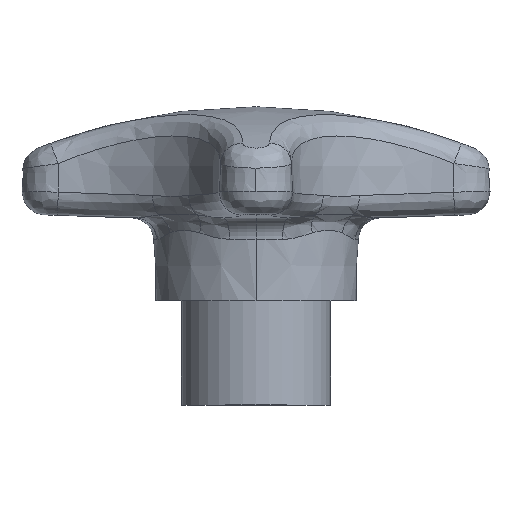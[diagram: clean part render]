
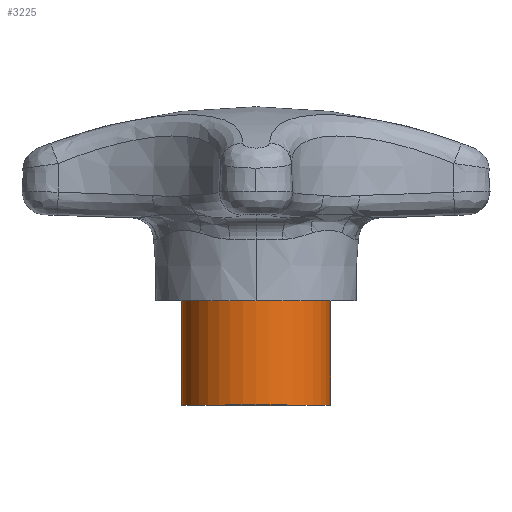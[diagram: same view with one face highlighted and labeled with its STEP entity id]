
A CAD part, top view. The second image highlights one B-rep face of the part: STEP entity #3225.
In plain terms, the highlighted cylindrical face has radius 10 mm (diameter 20 mm), a partial arc.
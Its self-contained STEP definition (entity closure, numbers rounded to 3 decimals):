
#294 = CARTESIAN_POINT ( 'NONE',  ( 0., 0., 0. ) ) ;
#315 = ORIENTED_EDGE ( 'NONE', *, *, #1858, .T. ) ;
#319 = FACE_OUTER_BOUND ( 'NONE', #3241, .T. ) ;
#330 = EDGE_CURVE ( 'NONE', #1095, #1022, #4169, .T. ) ;
#507 = AXIS2_PLACEMENT_3D ( 'NONE', #294, #2127, #4789 ) ;
#974 = CIRCLE ( 'NONE', #3438, 10. ) ;
#1022 = VERTEX_POINT ( 'NONE', #4627 ) ;
#1054 = CIRCLE ( 'NONE', #3827, 10. ) ;
#1095 = VERTEX_POINT ( 'NONE', #3482 ) ;
#1737 = ORIENTED_EDGE ( 'NONE', *, *, #1877, .T. ) ;
#1858 = EDGE_CURVE ( 'NONE', #3593, #4180, #4621, .T. ) ;
#1877 = EDGE_CURVE ( 'NONE', #1095, #3593, #1054, .T. ) ;
#1902 = DIRECTION ( 'NONE',  ( 0., -1., 0. ) ) ;
#2127 = DIRECTION ( 'NONE',  ( 0., -1., 0. ) ) ;
#2161 = ORIENTED_EDGE ( 'NONE', *, *, #2170, .F. ) ;
#2170 = EDGE_CURVE ( 'NONE', #1022, #4180, #974, .T. ) ;
#2291 = CARTESIAN_POINT ( 'NONE',  ( 10., 0., 0. ) ) ;
#2728 = CARTESIAN_POINT ( 'NONE',  ( 0., 14., 0. ) ) ;
#2881 = DIRECTION ( 'NONE',  ( 1., 0., 0. ) ) ;
#3225 = ADVANCED_FACE ( 'NONE', ( #319 ), #4421, .T. ) ;
#3241 = EDGE_LOOP ( 'NONE', ( #1737, #315, #2161, #4097 ) ) ;
#3438 = AXIS2_PLACEMENT_3D ( 'NONE', #3976, #3631, #2881 ) ;
#3482 = CARTESIAN_POINT ( 'NONE',  ( 10., 14., 0. ) ) ;
#3579 = VECTOR ( 'NONE', #1902, 1000. ) ;
#3589 = VECTOR ( 'NONE', #4301, 1000. ) ;
#3593 = VERTEX_POINT ( 'NONE', #4519 ) ;
#3596 = CARTESIAN_POINT ( 'NONE',  ( -10., 0., 0. ) ) ;
#3631 = DIRECTION ( 'NONE',  ( 0., -1., 0. ) ) ;
#3827 = AXIS2_PLACEMENT_3D ( 'NONE', #2728, #4254, #3923 ) ;
#3923 = DIRECTION ( 'NONE',  ( 1., 0., 0. ) ) ;
#3976 = CARTESIAN_POINT ( 'NONE',  ( 0., 0., 0. ) ) ;
#4097 = ORIENTED_EDGE ( 'NONE', *, *, #330, .F. ) ;
#4169 = LINE ( 'NONE', #2291, #3579 ) ;
#4180 = VERTEX_POINT ( 'NONE', #3596 ) ;
#4254 = DIRECTION ( 'NONE',  ( 0., -1., 0. ) ) ;
#4301 = DIRECTION ( 'NONE',  ( 0., -1., 0. ) ) ;
#4421 = CYLINDRICAL_SURFACE ( 'NONE', #507, 10. ) ;
#4519 = CARTESIAN_POINT ( 'NONE',  ( -10., 14., 0. ) ) ;
#4621 = LINE ( 'NONE', #4666, #3589 ) ;
#4627 = CARTESIAN_POINT ( 'NONE',  ( 10., 0., 0. ) ) ;
#4666 = CARTESIAN_POINT ( 'NONE',  ( -10., 0., 0. ) ) ;
#4789 = DIRECTION ( 'NONE',  ( 1., 0., 0. ) ) ;
